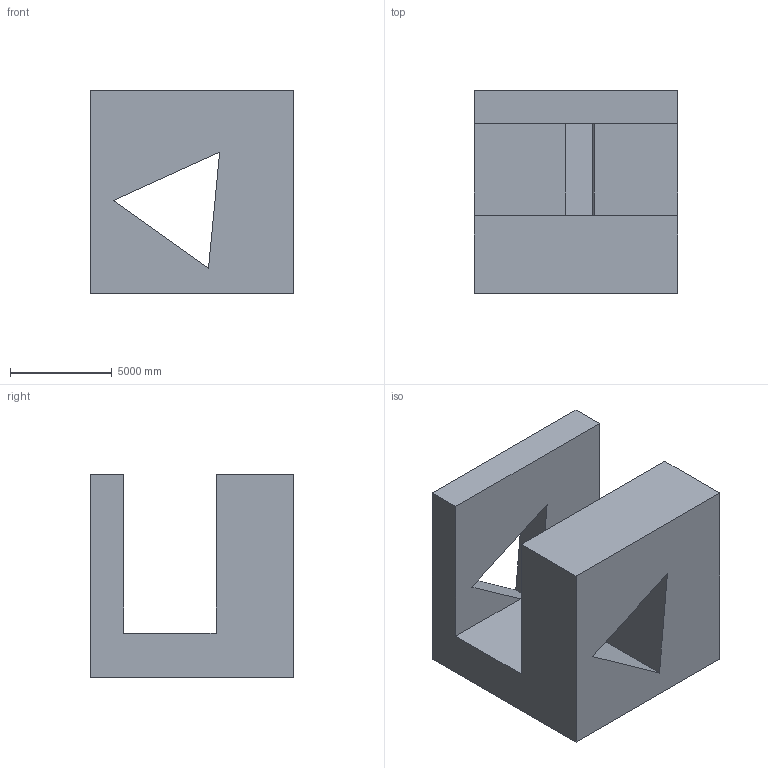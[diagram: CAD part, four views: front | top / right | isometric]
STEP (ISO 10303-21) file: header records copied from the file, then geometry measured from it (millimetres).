
FILE_DESCRIPTION (( 'STEP AP203' ), '1' );
FILE_NAME ('1019.STEP', '2022-08-25T14:38:42', ( 'user' ), ( '' ), 'SwSTEP 2.0', 'SolidWorks 2021', '' );
FILE_SCHEMA (( 'CONFIG_CONTROL_DESIGN' ));
Length unit declared in the file: centimetre
Products named in the file (1): 1019
Bounding box: 10000 x 10000 x 10000 mm (x, y, z)
Volume: 563787761480.5 mm3; surface area: 728522406.5 mm2
Topology: 1 solids, 1 shells, 15 faces, 45 edges, 30 vertices
Faces by surface type: plane 15
Entity records: 584 total; most frequent: CARTESIAN_POINT 91, ORIENTED_EDGE 90, DIRECTION 77, EDGE_CURVE 45, VECTOR 45, LINE 45, VERTEX_POINT 30, EDGE_LOOP 17
